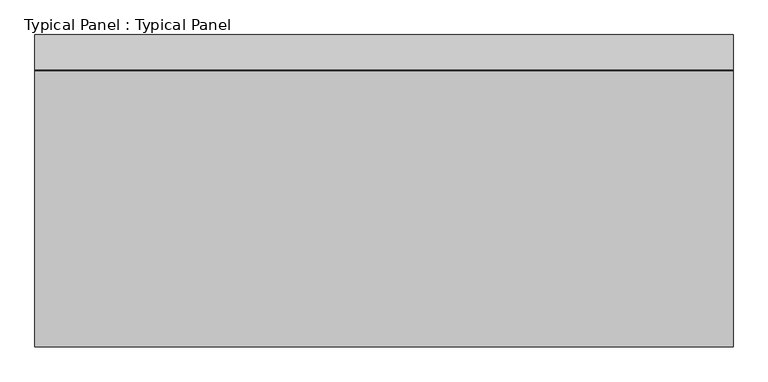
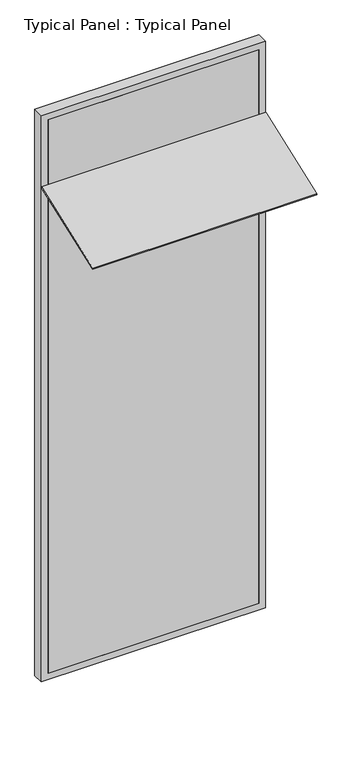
"""IFC4 building model written with IfcOpenShell, lengths in millimetres: plate geometry, Typical Panel : Typical Panel."""

import ifcopenshell
import ifcopenshell.guid

model = None  # the IFC model being written
_history = None  # IfcOwnerHistory: only IFC2X3 demands one
_inside = {}  # id of a spatial element -> (the spatial element, [elements in it])
_under = {}  # id of a project, library or spatial element -> (it, [spatial elements below it])
_declared = {}  # id of a project -> (the project, [libraries it declares])
_typed = {}  # id of a type object -> (the type object, [elements of that type])
_made_of = {}  # id of a material, layer set ... -> (it, [elements and type objects made of it])


def new_model(schema):
    """Start an empty IFC model of exactly this schema.

    Asked for "IFC4X3", IfcOpenShell would pick the latest addendum, in which some entities
    have other attributes; the version numbers below select the first issue.
    IFC2X3 requires an IfcOwnerHistory on every rooted entity: one is made here for all.
    """
    global model, _history
    if schema == "IFC4X3":
        model = ifcopenshell.file(schema_version=(4, 3, 0, 0))
    else:
        model = ifcopenshell.file(schema=schema)
    _inside.clear()
    _under.clear()
    _declared.clear()
    _typed.clear()
    _made_of.clear()
    _history = None
    if model.schema == "IFC2X3":
        org = make("IfcOrganization", Name="unknown")
        user = make(
            "IfcPersonAndOrganization",
            ThePerson=make("IfcPerson", FamilyName="unknown"),
            TheOrganization=org,
        )
        app = make(
            "IfcApplication",
            ApplicationDeveloper=org,
            Version="unknown",
            ApplicationFullName="unknown",
            ApplicationIdentifier="unknown",
        )
        _history = make(
            "IfcOwnerHistory",
            OwningUser=user,
            OwningApplication=app,
            ChangeAction="ADDED",
            CreationDate=0,
        )
    return model


def make(cls, **values):
    """One entity of the class cls with the attributes given. An attribute that is None is left unset."""
    return model.create_entity(
        cls, **{name: value for name, value in values.items() if value is not None}
    )


def rooted(cls, **values):
    """An entity with a GlobalId (a new one), such as an element, a storey or a relation."""
    return make(cls, GlobalId=ifcopenshell.guid.new(), OwnerHistory=_history, **values)


def si_unit(unit_type, name, prefix=None):
    """IfcSIUnit, for example si_unit("LENGTHUNIT", "METRE", prefix="MILLI")."""
    return make("IfcSIUnit", UnitType=unit_type, Prefix=prefix, Name=name)


def assignment(units):
    """IfcUnitAssignment: the units of a project."""
    return None if units is None else make("IfcUnitAssignment", Units=units)


def point(xyz):
    """IfcCartesianPoint."""
    return None if xyz is None else make("IfcCartesianPoint", Coordinates=xyz)


def direction(xyz):
    """IfcDirection."""
    return None if xyz is None else make("IfcDirection", DirectionRatios=xyz)


def frame(location, z_axis=None, x_axis=None):
    """IfcAxis2Placement3D, a coordinate frame: its origin and axes. An axis left out is left unset."""
    return make(
        "IfcAxis2Placement3D",
        Location=point(location),
        Axis=direction(z_axis),
        RefDirection=direction(x_axis),
    )


def origin():
    """The frame at (0, 0, 0) with its axes left unset."""
    return frame((0.0, 0.0, 0.0))


def place(relative_to, where):
    """IfcLocalPlacement: puts the frame where relative to a parent placement (None: the world)."""
    return make(
        "IfcLocalPlacement", PlacementRelTo=relative_to, RelativePlacement=where
    )


def context(
    kind, dimensions, precision=None, world=None, true_north=None, identifier=None
):
    """IfcGeometricRepresentationContext, for example the 3D "Model" context."""
    return make(
        "IfcGeometricRepresentationContext",
        ContextIdentifier=identifier,
        ContextType=kind,
        CoordinateSpaceDimension=dimensions,
        Precision=precision,
        WorldCoordinateSystem=world,
        TrueNorth=true_north,
    )


def project(units=None, contexts=None):
    """IfcProject with its units and contexts."""
    return rooted(
        "IfcProject",
        Name="project",
        RepresentationContexts=contexts,
        UnitsInContext=assignment(units),
    )


def spatial(cls, under=None, at=None, **own):
    """A site, building, storey or space (cls), placed at a placement, below another one or the project."""
    s = rooted(cls, ObjectPlacement=at, **own)
    if under is not None:
        _under.setdefault(under.id(), (under, []))[1].append(s)
    return s


def polyline(points):
    """IfcPolyline through the points."""
    return make("IfcPolyline", Points=[point(p) for p in points])


def outline(outer, holes=None, kind="AREA"):
    """IfcArbitraryClosedProfileDef: a profile drawn as a closed curve; with holes, ...WithVoids."""
    if holes is None:
        return make("IfcArbitraryClosedProfileDef", ProfileType=kind, OuterCurve=outer)
    return make(
        "IfcArbitraryProfileDefWithVoids",
        ProfileType=kind,
        OuterCurve=outer,
        InnerCurves=holes,
    )


def extrude(swept, where, along, depth):
    """IfcExtrudedAreaSolid: the profile swept, set in the frame where, extruded along a direction by depth."""
    return make(
        "IfcExtrudedAreaSolid",
        SweptArea=swept,
        Position=where,
        ExtrudedDirection=direction(along),
        Depth=depth,
    )


def shape(context_of_items, identifier, shape_type, items):
    """IfcShapeRepresentation: the items that make up one representation, for example the "Body"."""
    return make(
        "IfcShapeRepresentation",
        ContextOfItems=context_of_items,
        RepresentationIdentifier=identifier,
        RepresentationType=shape_type,
        Items=items,
    )


def source(mapping_origin, context_of_items, identifier, shape_type, items):
    """IfcRepresentationMap: a shape defined once, which mapped items show again and again."""
    return make(
        "IfcRepresentationMap",
        MappingOrigin=mapping_origin,
        MappedRepresentation=shape(context_of_items, identifier, shape_type, items),
    )


def transform(
    local_origin,
    x_axis=None,
    y_axis=None,
    z_axis=None,
    scale=None,
    scale2=None,
    scale3=None,
    uniform=True,
):
    """IfcCartesianTransformationOperator3D, or its non-uniform kind. x_axis, y_axis, z_axis: its Axis1, 2, 3."""
    if uniform:
        return make(
            "IfcCartesianTransformationOperator3D",
            Axis1=direction(x_axis),
            Axis2=direction(y_axis),
            LocalOrigin=point(local_origin),
            Scale=scale,
            Axis3=direction(z_axis),
        )
    return make(
        "IfcCartesianTransformationOperator3DnonUniform",
        Axis1=direction(x_axis),
        Axis2=direction(y_axis),
        LocalOrigin=point(local_origin),
        Scale=scale,
        Axis3=direction(z_axis),
        Scale2=scale2,
        Scale3=scale3,
    )


def mapped(mapping_source, mapping_target):
    """IfcMappedItem: shows the shape of a source again, moved by a transform."""
    return make(
        "IfcMappedItem", MappingSource=mapping_source, MappingTarget=mapping_target
    )


def made_of(thing, what):
    """Note that an element or type object is made of a material, layer set ...; save() writes the relation."""
    if what is not None:
        _made_of.setdefault(what.id(), (what, []))[1].append(thing)
    return thing


def element(
    cls,
    number,
    at=None,
    inside=None,
    cuts=None,
    type_object=None,
    material=None,
    context=None,
    identifier="Body",
    shape_type=None,
    held_by="IfcProductDefinitionShape",
    body=None,
    shapes=None,
    **own,
):
    """One element of the class cls, such as IfcWall. Its Tag is "e" and its number.

    at: its placement. inside: the storey or other place that contains it. cuts: it is an
    opening in that element (IfcRelVoidsElement). A single representation is given by context,
    identifier, shape_type and body (its items); several are given by shapes. held_by: the class
    of the entity that holds the representations. save() writes the other relations.
    """
    e = rooted(cls, Tag="e%d" % number, ObjectPlacement=at, **own)
    if body is not None:
        shapes = [shape(context, identifier, shape_type, body)]
    if shapes is not None:
        e.Representation = make(held_by, Representations=shapes)
    if inside is not None:
        _inside.setdefault(inside.id(), (inside, []))[1].append(e)
    if cuts is not None:
        rooted(
            "IfcRelVoidsElement", RelatingBuildingElement=cuts, RelatedOpeningElement=e
        )
    if type_object is not None:
        _typed.setdefault(type_object.id(), (type_object, []))[1].append(e)
    return made_of(e, material)


def aggregate(whole, parts):
    """IfcRelAggregates: a whole, such as a stair, and the parts it consists of."""
    return rooted("IfcRelAggregates", RelatingObject=whole, RelatedObjects=parts)


def save(model, path):
    """Write the relations noted so far, then the file.

    IfcRelAggregates (storeys below a building ...), IfcRelContainedInSpatialStructure (elements
    in a storey), IfcRelDefinesByType, IfcRelAssociatesMaterial and IfcRelDeclares: one each for
    every whole, place, type object, material and project.
    """
    for whole, parts in _under.values():
        aggregate(whole, parts)
    for where, things in _inside.values():
        rooted(
            "IfcRelContainedInSpatialStructure",
            RelatedElements=things,
            RelatingStructure=where,
        )
    for kind, things in _typed.values():
        rooted("IfcRelDefinesByType", RelatedObjects=things, RelatingType=kind)
    for what, things in _made_of.values():
        rooted("IfcRelAssociatesMaterial", RelatedObjects=things, RelatingMaterial=what)
    for by, libraries in _declared.values():
        rooted("IfcRelDeclares", RelatingContext=by, RelatedDefinitions=libraries)
    model.write(path)


def typical_panel_typical_panel_ad1c7da8(model_context):
    return source(origin(), model_context, "Body", "SweptSolid", [
        extrude(outline(polyline([(0.0, -630.0), (0.0, 0.0), (1500.0, 0.0), (1500.0, -630.0), (0.0, -630.0)])), frame((750.0, -593.5861497, 3275.1303835), z_axis=(0.0, -0.3420201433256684, 0.9396926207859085), x_axis=(-1.0, 0.0, 0.0)), (0.0, 0.0, 1.0), 10.0),
        extrude(outline(polyline([(0.0, -750.0), (0.0, 750.0), (4000.0, 750.0), (4000.0, -750.0), (0.0, -750.0)]), holes=[polyline([(45.0, 705.0), (45.0, -705.0), (3955.0, -705.0), (3955.0, 705.0), (45.0, 705.0)])]), frame((0.0, -1.5797986, 0.0), z_axis=(0.0, 1.0, 0.0), x_axis=(0.0, 0.0, 1.0)), (0.0, 0.0, 1.0), 75.0),
        extrude(outline(polyline([(705.0, -1.5797986), (-705.0, -1.5797986), (-705.0, 13.4202014), (705.0, 13.4202014), (705.0, -1.5797986)])), frame((0.0, 0.0, 45.0), z_axis=(0.0, 0.0, 1.0), x_axis=(1.0, 0.0, 0.0)), (0.0, 0.0, 1.0), 3910.0),
    ])


if __name__ == "__main__":
    model = new_model("IFC4")
    model_context = context("Model", 3, world=origin())
    ifc_project = project(units=[si_unit("LENGTHUNIT", "METRE", prefix="MILLI")], contexts=[model_context])
    site = spatial("IfcSite", under=ifc_project)
    building = spatial("IfcBuilding", under=site)
    placement = place(None, origin())
    typical_panel_typical_panel_shape = typical_panel_typical_panel_ad1c7da8(model_context)
    element("IfcPlate", 1, ObjectType="Typical Panel : Typical Panel", at=placement, inside=building, context=model_context, shape_type="MappedRepresentation", body=[
        mapped(typical_panel_typical_panel_shape, transform((0.0, 0.0, 0.0), x_axis=(1.0, 0.0, 0.0), y_axis=(0.0, 1.0, 0.0), z_axis=(0.0, 0.0, 1.0))),
    ])
    save(model, "model.ifc")
